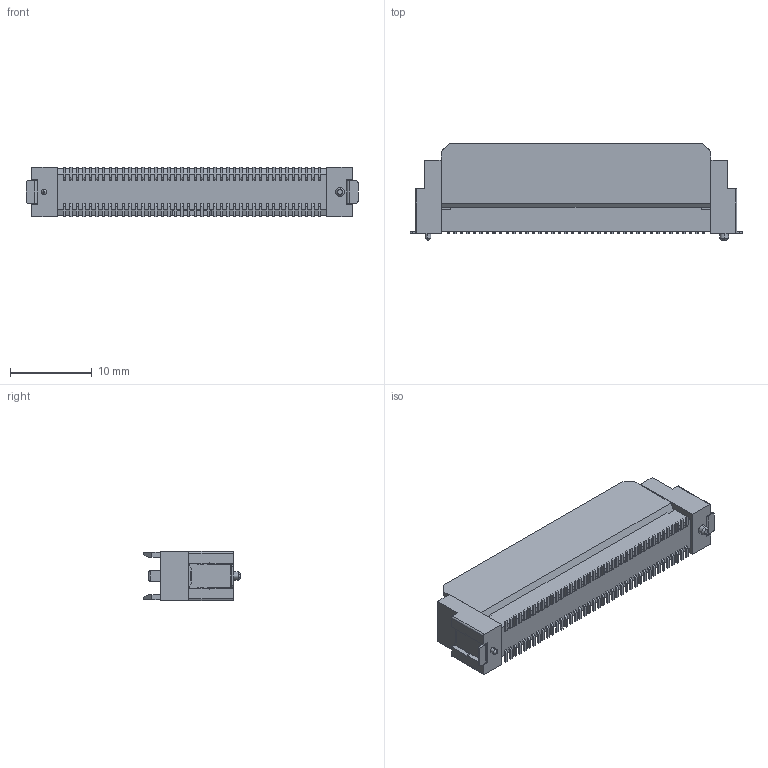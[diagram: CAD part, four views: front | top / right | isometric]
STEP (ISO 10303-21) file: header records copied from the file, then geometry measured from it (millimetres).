
FILE_DESCRIPTION (( 'STEP AP203' ), '1' );
FILE_NAME ('DFJ-PC080-S931110D(M)-FA.STEP', '2021-09-07T01:23:05', ( '' ), ( '' ), 'SwSTEP 2.0', 'SolidWorks 2018', '' );
FILE_SCHEMA (( 'CONFIG_CONTROL_DESIGN' ));
Length unit declared in the file: millimetre
Products named in the file (1): DFJ-PC080-S931110D(M)-FA
Bounding box: 40.6 x 11.8 x 6 mm (x, y, z)
Volume: 1491.4 mm3; surface area: 2333.6 mm2
Topology: 1 solids, 1 shells, 1114 faces, 3038 edges, 2002 vertices
Faces by surface type: plane 892, cylinder 204, cone 12, bspline 4, torus 2
Entity records: 35029 total; most frequent: CARTESIAN_POINT 6325, ORIENTED_EDGE 6068, DIRECTION 5780, EDGE_CURVE 3034, VECTOR 2450, LINE 2450, VERTEX_POINT 2002, AXIS2_PLACEMENT_3D 1665
